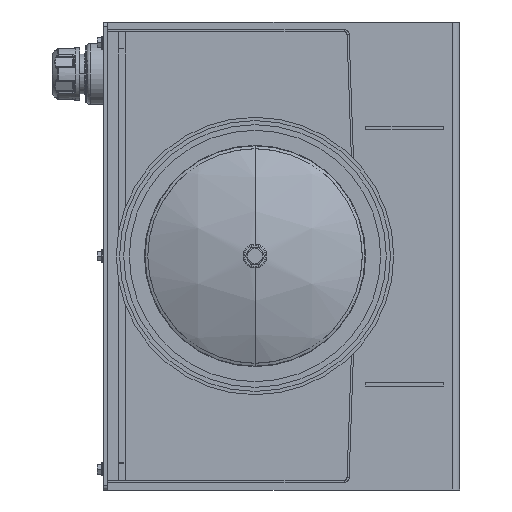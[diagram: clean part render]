
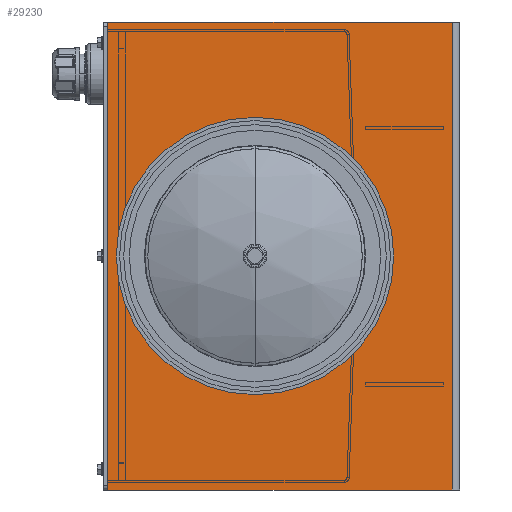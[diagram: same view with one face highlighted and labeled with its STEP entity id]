
A CAD part, left-side view. The second image highlights one B-rep face of the part: STEP entity #29230.
In plain terms, the highlighted planar face has unit normal (-1, 0, 0).
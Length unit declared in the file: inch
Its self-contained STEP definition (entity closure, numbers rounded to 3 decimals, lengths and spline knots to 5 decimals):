
#190 = CARTESIAN_POINT ( 'NONE',  ( -33.47429, 8.14656, 14.77026 ) ) ;
#914 = DIRECTION ( 'NONE',  ( -1., 0., 0. ) ) ;
#1687 = CIRCLE ( 'NONE', #7877, 6.125 ) ;
#1886 = EDGE_LOOP ( 'NONE', ( #17206, #7082 ) ) ;
#2113 = DIRECTION ( 'NONE',  ( -1., 0., 0. ) ) ;
#5045 = VECTOR ( 'NONE', #23537, 39.37008 ) ;
#5189 = CIRCLE ( 'NONE', #6272, 6.125 ) ;
#5423 = VERTEX_POINT ( 'NONE', #22266 ) ;
#6041 = CARTESIAN_POINT ( 'NONE',  ( -33.47429, -12.16594, 14.77026 ) ) ;
#6272 = AXIS2_PLACEMENT_3D ( 'NONE', #15908, #914, #18411 ) ;
#7082 = ORIENTED_EDGE ( 'NONE', *, *, #19346, .F. ) ;
#7199 = PLANE ( 'NONE',  #15545 ) ;
#7877 = AXIS2_PLACEMENT_3D ( 'NONE', #17083, #2113, #19620 ) ;
#8218 = EDGE_CURVE ( 'NONE', #15892, #28818, #11689, .T. ) ;
#9703 = CARTESIAN_POINT ( 'NONE',  ( -33.47429, 8.14656, -12.22974 ) ) ;
#10490 = CARTESIAN_POINT ( 'NONE',  ( -33.47429, 8.14656, -12.22974 ) ) ;
#11275 = CARTESIAN_POINT ( 'NONE',  ( -33.47429, -11.73664, -12.22974 ) ) ;
#11563 = EDGE_CURVE ( 'NONE', #21777, #19435, #1687, .T. ) ;
#11689 = LINE ( 'NONE', #6041, #5045 ) ;
#11743 = EDGE_LOOP ( 'NONE', ( #12541, #31331, #24317, #23155 ) ) ;
#12176 = CARTESIAN_POINT ( 'NONE',  ( -33.47429, 8.14656, -12.22974 ) ) ;
#12206 = DIRECTION ( 'NONE',  ( 0., 0., -1. ) ) ;
#12541 = ORIENTED_EDGE ( 'NONE', *, *, #13225, .T. ) ;
#12810 = EDGE_CURVE ( 'NONE', #28818, #18688, #27821, .T. ) ;
#13225 = EDGE_CURVE ( 'NONE', #5423, #15892, #23941, .T. ) ;
#13673 = CARTESIAN_POINT ( 'NONE',  ( -33.47429, 0.01656, 7.39526 ) ) ;
#15545 = AXIS2_PLACEMENT_3D ( 'NONE', #9703, #32113, #12206 ) ;
#15892 = VERTEX_POINT ( 'NONE', #20650 ) ;
#15908 = CARTESIAN_POINT ( 'NONE',  ( -33.47429, 0.01656, 1.27026 ) ) ;
#16152 = VECTOR ( 'NONE', #16267, 39.37008 ) ;
#16267 = DIRECTION ( 'NONE',  ( 0., -1., 0. ) ) ;
#17083 = CARTESIAN_POINT ( 'NONE',  ( -33.47429, 0.01656, 1.27026 ) ) ;
#17206 = ORIENTED_EDGE ( 'NONE', *, *, #11563, .F. ) ;
#17274 = VECTOR ( 'NONE', #18816, 39.37008 ) ;
#18411 = DIRECTION ( 'NONE',  ( 0., 0., 1. ) ) ;
#18688 = VERTEX_POINT ( 'NONE', #10490 ) ;
#18816 = DIRECTION ( 'NONE',  ( 0., 0., 1. ) ) ;
#18888 = EDGE_CURVE ( 'NONE', #18688, #5423, #23605, .T. ) ;
#19346 = EDGE_CURVE ( 'NONE', #19435, #21777, #5189, .T. ) ;
#19435 = VERTEX_POINT ( 'NONE', #26514 ) ;
#19620 = DIRECTION ( 'NONE',  ( 0., 0., 1. ) ) ;
#20589 = FACE_BOUND ( 'NONE', #1886, .T. ) ;
#20650 = CARTESIAN_POINT ( 'NONE',  ( -33.47429, -11.73664, 14.77026 ) ) ;
#21777 = VERTEX_POINT ( 'NONE', #13673 ) ;
#22266 = CARTESIAN_POINT ( 'NONE',  ( -33.47429, -11.73664, -12.22974 ) ) ;
#23155 = ORIENTED_EDGE ( 'NONE', *, *, #18888, .T. ) ;
#23537 = DIRECTION ( 'NONE',  ( 0., 1., 0. ) ) ;
#23605 = LINE ( 'NONE', #31352, #16152 ) ;
#23941 = LINE ( 'NONE', #11275, #17274 ) ;
#24317 = ORIENTED_EDGE ( 'NONE', *, *, #12810, .T. ) ;
#26443 = FACE_OUTER_BOUND ( 'NONE', #11743, .T. ) ;
#26514 = CARTESIAN_POINT ( 'NONE',  ( -33.47429, 0.01656, -4.85474 ) ) ;
#27821 = LINE ( 'NONE', #12176, #28603 ) ;
#28603 = VECTOR ( 'NONE', #29681, 39.37008 ) ;
#28818 = VERTEX_POINT ( 'NONE', #190 ) ;
#29230 = ADVANCED_FACE ( 'NONE', ( #20589, #26443 ), #7199, .F. ) ;
#29681 = DIRECTION ( 'NONE',  ( 0., 0., -1. ) ) ;
#31331 = ORIENTED_EDGE ( 'NONE', *, *, #8218, .T. ) ;
#31352 = CARTESIAN_POINT ( 'NONE',  ( -33.47429, -12.16594, -12.22974 ) ) ;
#32113 = DIRECTION ( 'NONE',  ( 1., 0., 0. ) ) ;
